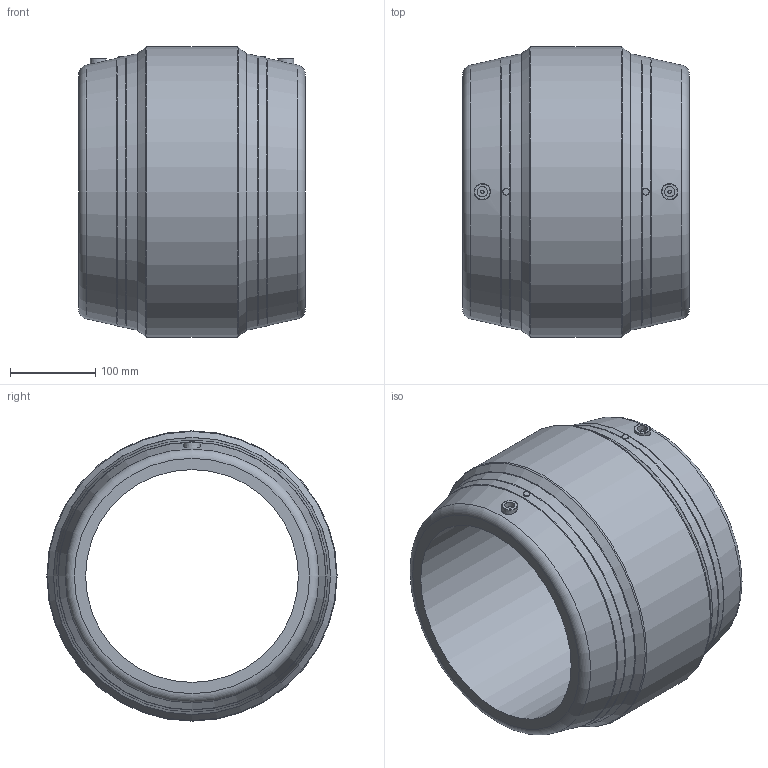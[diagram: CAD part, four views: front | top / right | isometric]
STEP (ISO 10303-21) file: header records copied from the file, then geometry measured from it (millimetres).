
FILE_DESCRIPTION(/* description */ ('Unknown'),/* implementation_level */ '2;1');
FILE_NAME(/* name */ 'MP250H',/* time_stamp */ '2021-05-27T11:20:02+02:00',/* author */ ('Unknown'),/* organization */ ('Unknown'),/* preprocessor_version */ 'ST-DEVELOPER v16.7',/* originating_system */ 'Solid Edge',/* authorisation */ 'Unknown');
FILE_SCHEMA (('AUTOMOTIVE_DESIGN {1 0 10303 214 3 1 1}'));
Length unit declared in the file: millimetre
Products named in the file (1): MP250H
Bounding box: 266 x 341 x 341 mm (x, y, z)
Volume: 8922755.3 mm3; surface area: 523556.1 mm2
Topology: 1 solids, 1 shells, 40 faces, 92 edges, 58 vertices
Faces by surface type: torus 12, cone 10, plane 10, cylinder 8
Full cylindrical faces by diameter (mm): 4 x2, 8 x2, 12 x2, 250 x1, 341 x1
Entity records: 894 total; most frequent: CARTESIAN_POINT 185, DIRECTION 154, ORIENTED_EDGE 84, EDGE_LOOP 78, FACE_BOUND 78, AXIS2_PLACEMENT_3D 77, EDGE_CURVE 42, VERTEX_POINT 40
